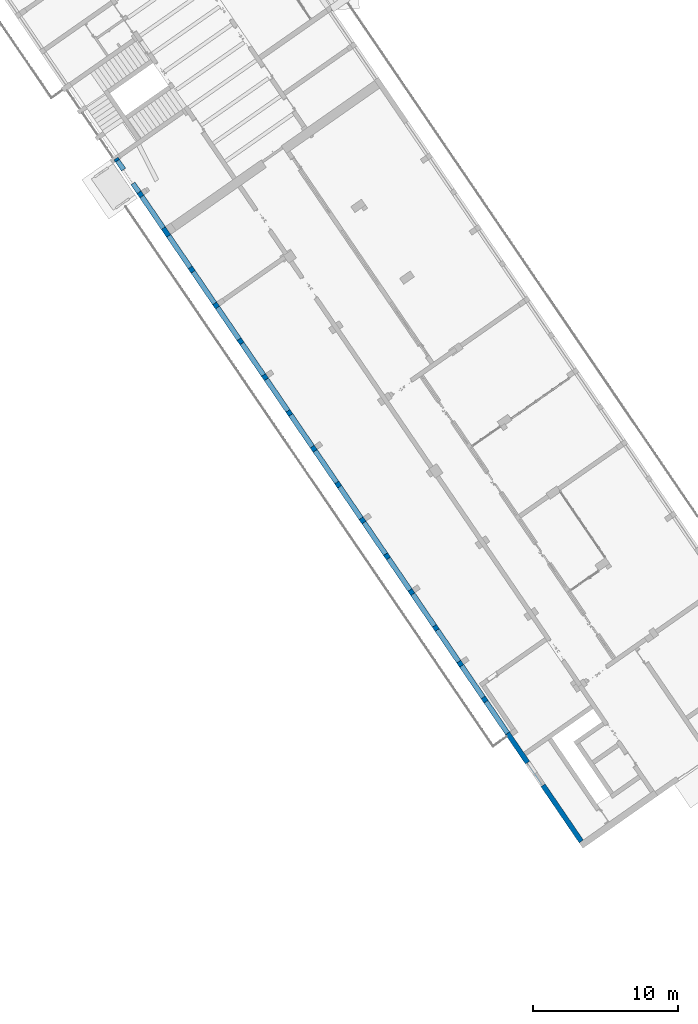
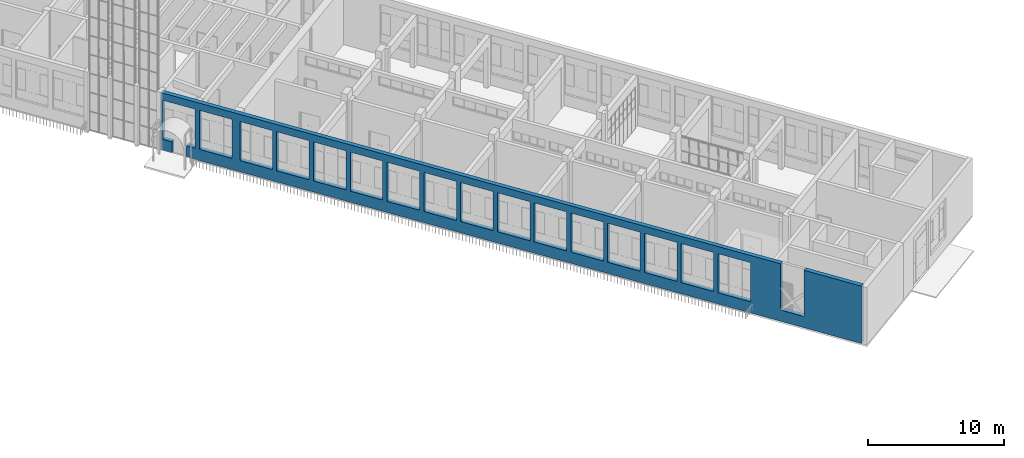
# One storey, part 121 of 157: 1 wall, 15 openings.
"""IFC2X3 building model written with IfcOpenShell, lengths in millimetres."""

from ifc_helpers import new_model, entity, si_unit, converted_unit, derived_unit, direction, frame, frame_2d, origin, place, context, subcontext, project, spatial, rectangle, extrude, faceted_brep, material, layer, layer_set, type_object, element, save


model = new_model("IFC2X3")

# Units and contexts
model_context = context("Model", 3, precision=0.01, world=origin(), true_north=direction((6.123031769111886e-17, 1.0)))
body_context = subcontext(model_context, "Body", "Model", "MODEL_VIEW")
ifc_project = project(units=[si_unit("LENGTHUNIT", "METRE", prefix="MILLI"), si_unit("AREAUNIT", "SQUARE_METRE"), si_unit("VOLUMEUNIT", "CUBIC_METRE"), converted_unit("PLANEANGLEUNIT", "DEGREE", entity("IfcRatioMeasure", 0.017453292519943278), si_unit("PLANEANGLEUNIT", "RADIAN"), dimensions=[0, 0, 0, 0, 0, 0, 0]), si_unit("MASSUNIT", "GRAM", prefix="KILO"), derived_unit("MASSDENSITYUNIT", [(si_unit("MASSUNIT", "GRAM", prefix="KILO"), 1), (si_unit("LENGTHUNIT", "METRE"), -3)]), derived_unit("MOMENTOFINERTIAUNIT", [(si_unit("LENGTHUNIT", "METRE"), 4)]), si_unit("TIMEUNIT", "SECOND"), si_unit("FREQUENCYUNIT", "HERTZ"), si_unit("THERMODYNAMICTEMPERATUREUNIT", "DEGREE_CELSIUS"), derived_unit("THERMALTRANSMITTANCEUNIT", [(si_unit("MASSUNIT", "GRAM", prefix="KILO"), 1), (si_unit("THERMODYNAMICTEMPERATUREUNIT", "KELVIN"), -1), (si_unit("TIMEUNIT", "SECOND"), -3)]), derived_unit("THERMALCONDUCTANCEUNIT", [(si_unit("MASSUNIT", "GRAM", prefix="KILO"), 1), (si_unit("LENGTHUNIT", "METRE"), 1), (si_unit("THERMODYNAMICTEMPERATUREUNIT", "KELVIN"), -1), (si_unit("TIMEUNIT", "SECOND"), -3)]), derived_unit("VOLUMETRICFLOWRATEUNIT", [(si_unit("LENGTHUNIT", "METRE"), 3), (si_unit("TIMEUNIT", "SECOND"), -1)]), derived_unit("MASSFLOWRATEUNIT", [(si_unit("MASSUNIT", "GRAM", prefix="KILO"), 1), (si_unit("TIMEUNIT", "SECOND"), -1)]), derived_unit("ROTATIONALFREQUENCYUNIT", [(si_unit("TIMEUNIT", "SECOND"), -1)]), si_unit("ELECTRICCURRENTUNIT", "AMPERE"), si_unit("ELECTRICVOLTAGEUNIT", "VOLT"), si_unit("POWERUNIT", "WATT"), converted_unit("FORCEUNIT", "KIP", entity("IfcRatioMeasure", 2.088543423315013e-05), si_unit("FORCEUNIT", "NEWTON"), dimensions=[1, 1, -2, 0, 0, 0, 0]), si_unit("ILLUMINANCEUNIT", "LUX"), si_unit("LUMINOUSFLUXUNIT", "LUMEN"), si_unit("LUMINOUSINTENSITYUNIT", "CANDELA"), derived_unit("USERDEFINED", [(si_unit("MASSUNIT", "GRAM", prefix="KILO"), -1), (si_unit("LENGTHUNIT", "METRE"), -2), (si_unit("TIMEUNIT", "SECOND"), 3), (si_unit("LUMINOUSFLUXUNIT", "LUMEN"), 1)]), derived_unit("USERDEFINED", [(si_unit("MASSUNIT", "GRAM", prefix="KILO"), 1), (si_unit("LENGTHUNIT", "METRE"), 3), (si_unit("TIMEUNIT", "SECOND"), -3), (si_unit("ELECTRICCURRENTUNIT", "AMPERE"), -2)]), derived_unit("USERDEFINED", [(si_unit("LENGTHUNIT", "METRE"), 2), (si_unit("TIMEUNIT", "SECOND"), -2)]), derived_unit("SOUNDPOWERUNIT", [(si_unit("MASSUNIT", "GRAM", prefix="KILO"), 1), (si_unit("LENGTHUNIT", "METRE"), 2), (si_unit("TIMEUNIT", "SECOND"), -3)]), derived_unit("SOUNDPRESSUREUNIT", [(si_unit("MASSUNIT", "GRAM", prefix="KILO"), 1), (si_unit("LENGTHUNIT", "METRE"), -1), (si_unit("TIMEUNIT", "SECOND"), -2)]), derived_unit("LINEARVELOCITYUNIT", [(si_unit("LENGTHUNIT", "METRE"), 1), (si_unit("TIMEUNIT", "SECOND"), -1)]), si_unit("PRESSUREUNIT", "PASCAL"), derived_unit("USERDEFINED", [(si_unit("LENGTHUNIT", "METRE"), -2), (si_unit("MASSUNIT", "GRAM", prefix="KILO"), 1), (si_unit("TIMEUNIT", "SECOND"), -2)]), derived_unit("LINEARFORCEUNIT", [(si_unit("MASSUNIT", "GRAM", prefix="KILO"), 1), (si_unit("LENGTHUNIT", "METRE"), 1), (si_unit("TIMEUNIT", "SECOND"), -2), (si_unit("LENGTHUNIT", "METRE"), -1)]), derived_unit("PLANARFORCEUNIT", [(si_unit("MASSUNIT", "GRAM", prefix="KILO"), 1), (si_unit("LENGTHUNIT", "METRE"), 1), (si_unit("TIMEUNIT", "SECOND"), -2), (si_unit("LENGTHUNIT", "METRE"), -2)]), derived_unit("SPECIFICHEATCAPACITYUNIT", [(si_unit("LENGTHUNIT", "METRE"), 2), (si_unit("TIMEUNIT", "SECOND"), -2), (si_unit("THERMODYNAMICTEMPERATUREUNIT", "KELVIN"), -1)]), derived_unit("VAPORPERMEABILITYUNIT", [(si_unit("TIMEUNIT", "SECOND"), 1), (si_unit("LENGTHUNIT", "METRE"), -1)]), derived_unit("DYNAMICVISCOSITYUNIT", [(si_unit("MASSUNIT", "GRAM", prefix="KILO"), 1), (si_unit("LENGTHUNIT", "METRE"), -1), (si_unit("TIMEUNIT", "SECOND"), -1)]), derived_unit("THERMALEXPANSIONCOEFFICIENTUNIT", [(si_unit("THERMODYNAMICTEMPERATUREUNIT", "KELVIN"), -1)])], contexts=[model_context])

# Site, building, storey
site_placement = place(None, frame((0.0, 0.0, 0.0), z_axis=(0.0, 0.0, 1.0), x_axis=(0.8191520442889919, 0.5735764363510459, 0.0)))
site = spatial("IfcSite", under=ifc_project, at=site_placement, Name="Default", CompositionType="ELEMENT")
building_placement = place(site_placement, origin())
building = spatial("IfcBuilding", under=site, at=building_placement, CompositionType="ELEMENT")
storey_placement = place(building_placement, origin())
storey = spatial("IfcBuildingStorey", under=building, at=storey_placement, Name="1.EG +0.00", CompositionType="ELEMENT", Elevation=-4.331468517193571e-12)

# Wall, openings
ifc_material = material(Name="Analytical Wall Surface_CJC")
ifc_layer = layer(ifc_material, 350.0)
ifc_layer_set = layer_set([ifc_layer], Name="Basic Wall:Wand_Aussen_35")
wall_type = type_object("IfcWallType", Name="Basic Wall:Wand_Aussen_35", PredefinedType="STANDARD", material=ifc_layer_set)
wall_placement = place(storey_placement, frame((-223727.55921738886, 52519.13123651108, 0.0), z_axis=(0.0, 0.0, 1.0), x_axis=(0.012729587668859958, 0.9999189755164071, 0.0)))
wall = element("IfcWall", 1, at=wall_placement, inside=storey, type_object=wall_type, Name="Basic Wall:Wand_Aussen_35", ObjectType="Basic Wall:Wand_Aussen_35", context=body_context, shape_type="Brep", body=[
    faceted_brep([(57179.6329502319, -175.0, 0.0), (57179.6329502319, -175.0, 5150.0), (57009.07448650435, -175.0, 5150.0), (54358.859754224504, -175.0, 5150.0), (54008.8313933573, -175.0, 5150.0), (51358.61666107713, -175.0, 5150.0), (50708.56399089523, -175.0, 5150.0), (7355.051294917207, -175.0, 5150.0), (7055.026985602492, -175.0, 5150.0), (6603.0809287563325, -175.0, 5150.0), (6603.0809287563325, -175.0, 1000.0), (4702.290438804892, -175.0, 1000.0), (4702.290438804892, -175.0, 5150.0), (4.455716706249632, -175.0, 5150.0), (4.455716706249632, -175.0, 0.0), (7055.026985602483, -175.0, 0.0), (7355.051294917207, -175.0, 0.0), (8705.160686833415, -175.0, 0.0), (9055.189047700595, -175.0, 0.0), (50708.56399089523, -175.0, 0.0), (51358.61666107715, -175.0, 0.0), (54008.83139335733, -175.0, 0.0), (54358.85975422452, -175.0, 0.0), (55102.85698604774, -175.0, 0.0), (55102.85698604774, -175.0, 1000.0), (54352.85698604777, -175.0, 1000.0), (54352.85698604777, -175.0, 4500.0), (57002.856986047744, -175.0, 4500.0), (57002.85698604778, -175.0, 1000.0), (56252.85698604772, -175.0, 1000.0), (56252.85698604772, -175.0, 0.0), (57009.07448650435, -175.0, 0.0), (9052.85698604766, -175.0, 1000.0), (9052.856986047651, -175.0, 4500.0), (11702.856986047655, -175.0, 4500.0), (11702.856986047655, -175.0, 1000.0), (12052.856986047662, -175.0, 1000.0), (12052.856986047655, -175.0, 4500.0), (14702.85698604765, -175.0, 4500.0), (14702.85698604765, -175.0, 1000.0), (18052.856986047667, -175.0, 1000.0), (18052.85698604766, -175.0, 4500.0), (20702.85698604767, -175.0, 4500.0), (20702.85698604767, -175.0, 1000.0), (15052.856986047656, -175.0, 1000.0), (15052.856986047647, -175.0, 4500.0), (17702.856986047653, -175.0, 4500.0), (17702.856986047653, -175.0, 1000.0), (24052.85698604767, -175.0, 1000.0), (24052.856986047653, -175.0, 4500.0), (26702.856986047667, -175.0, 4500.0), (26702.856986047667, -175.0, 1000.0), (21052.85698604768, -175.0, 1000.0), (21052.85698604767, -175.0, 4500.0), (23702.856986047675, -175.0, 4500.0), (23702.856986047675, -175.0, 1000.0), (30052.856986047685, -175.0, 1000.0), (30052.856986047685, -175.0, 4500.0), (32702.856986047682, -175.0, 4500.0), (32702.856986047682, -175.0, 1000.0), (27052.856986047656, -175.0, 1000.0), (27052.856986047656, -175.0, 4500.0), (29702.85698604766, -175.0, 4500.0), (29702.85698604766, -175.0, 1000.0), (36052.85698604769, -175.0, 1000.0), (36052.85698604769, -175.0, 4500.0), (38702.85698604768, -175.0, 4500.0), (38702.85698604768, -175.0, 1000.0), (33052.856986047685, -175.0, 1000.0), (33052.856986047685, -175.0, 4500.0), (35702.856986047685, -175.0, 4500.0), (35702.856986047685, -175.0, 1000.0), (42052.8569860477, -175.0, 1000.0), (42052.8569860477, -175.0, 4500.0), (44702.85698604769, -175.0, 4500.0), (44702.85698604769, -175.0, 1000.0), (39052.8569860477, -175.0, 1000.0), (39052.8569860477, -175.0, 4500.0), (41702.85698604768, -175.0, 4500.0), (41702.85698604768, -175.0, 1000.0), (48052.856986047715, -175.0, 1000.0), (48052.856986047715, -175.0, 4500.0), (50702.85698604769, -175.0, 4500.0), (50702.85698604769, -175.0, 1000.0), (45052.856986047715, -175.0, 1000.0), (45052.856986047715, -175.0, 4500.0), (47702.85698604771, -175.0, 4500.0), (47702.85698604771, -175.0, 1000.0), (51352.8569860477, -175.0, 1000.0), (51352.8569860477, -175.0, 4500.0), (54002.85698604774, -175.0, 4500.0), (54002.85698604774, -175.0, 1000.0), (57179.63295023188, 175.0, 5150.0), (57179.63295023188, 175.0, 0.0), (57004.61876979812, 175.0, 0.0), (56252.856986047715, 175.0, 0.0), (56252.85698604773, 175.0, 1000.0), (57002.85698604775, 175.0, 1000.0), (57002.85698604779, 175.0, 4500.0), (54352.85698604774, 175.0, 4500.0), (54352.85698604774, 175.0, 1000.0), (55102.856986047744, 175.0, 1000.0), (55102.856986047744, 175.0, 0.0), (0.0, 175.0, 0.0), (0.0, 175.0, 5150.0), (4702.290438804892, 175.0, 5150.0), (4702.290438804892, 175.0, 1000.0), (6603.0809287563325, 175.0, 1000.0), (6603.080928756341, 175.0, 5150.0), (57004.6187697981, 175.0, 5150.0), (9052.85698604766, 175.0, 4500.0), (9052.856986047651, 175.0, 1000.0), (11702.856986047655, 175.0, 1000.0), (11702.856986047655, 175.0, 4500.0), (12052.856986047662, 175.0, 4500.0), (12052.856986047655, 175.0, 1000.0), (14702.85698604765, 175.0, 1000.0), (14702.85698604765, 175.0, 4500.0), (18052.856986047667, 175.0, 4500.0), (18052.85698604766, 175.0, 1000.0), (20702.85698604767, 175.0, 1000.0), (20702.85698604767, 175.0, 4500.0), (15052.856986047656, 175.0, 4500.0), (15052.856986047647, 175.0, 1000.0), (17702.856986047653, 175.0, 1000.0), (17702.856986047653, 175.0, 4500.0), (24052.85698604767, 175.0, 4500.0), (24052.856986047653, 175.0, 1000.0), (26702.85698604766, 175.0, 1000.0), (26702.85698604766, 175.0, 4500.0), (21052.85698604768, 175.0, 4500.0), (21052.85698604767, 175.0, 1000.0), (23702.856986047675, 175.0, 1000.0), (23702.856986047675, 175.0, 4500.0), (30052.85698604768, 175.0, 4500.0), (30052.85698604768, 175.0, 1000.0), (32702.85698604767, 175.0, 1000.0), (32702.85698604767, 175.0, 4500.0), (27052.856986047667, 175.0, 4500.0), (27052.856986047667, 175.0, 1000.0), (29702.856986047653, 175.0, 1000.0), (29702.856986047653, 175.0, 4500.0), (36052.85698604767, 175.0, 4500.0), (36052.85698604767, 175.0, 1000.0), (38702.85698604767, 175.0, 1000.0), (38702.85698604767, 175.0, 4500.0), (33052.85698604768, 175.0, 4500.0), (33052.85698604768, 175.0, 1000.0), (35702.85698604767, 175.0, 1000.0), (35702.85698604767, 175.0, 4500.0), (42052.856986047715, 175.0, 4500.0), (42052.856986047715, 175.0, 1000.0), (44702.8569860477, 175.0, 1000.0), (44702.8569860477, 175.0, 4500.0), (39052.85698604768, 175.0, 4500.0), (39052.85698604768, 175.0, 1000.0), (41702.856986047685, 175.0, 1000.0), (41702.856986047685, 175.0, 4500.0), (48052.85698604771, 175.0, 4500.0), (48052.85698604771, 175.0, 1000.0), (50702.8569860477, 175.0, 1000.0), (50702.8569860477, 175.0, 4500.0), (45052.85698604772, 175.0, 4500.0), (45052.85698604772, 175.0, 1000.0), (47702.85698604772, 175.0, 1000.0), (47702.85698604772, 175.0, 4500.0), (51352.85698604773, 175.0, 4500.0), (51352.85698604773, 175.0, 1000.0), (54002.856986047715, 175.0, 1000.0), (54002.856986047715, 175.0, 4500.0), (6603.080928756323, 25.0, 5150.0), (6603.080928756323, 25.0, 1000.0), (4702.290438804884, 25.0, 1000.0), (4702.290438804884, 25.0, 5150.0)], [[[0, 1, 2, 3, 4, 5, 6, 7, 8, 9, 10, 11, 12, 13, 14, 15, 16, 17, 18, 19, 20, 21, 22, 23, 24, 25, 26, 27, 28, 29, 30, 31], [32, 33, 34, 35], [36, 37, 38, 39], [40, 41, 42, 43], [44, 45, 46, 47], [48, 49, 50, 51], [52, 53, 54, 55], [56, 57, 58, 59], [60, 61, 62, 63], [64, 65, 66, 67], [68, 69, 70, 71], [72, 73, 74, 75], [76, 77, 78, 79], [80, 81, 82, 83], [84, 85, 86, 87], [88, 89, 90, 91]], [[92, 93, 94, 95, 96, 97, 98, 99, 100, 101, 102, 103, 104, 105, 106, 107, 108, 109], [110, 111, 112, 113], [114, 115, 116, 117], [118, 119, 120, 121], [122, 123, 124, 125], [126, 127, 128, 129], [130, 131, 132, 133], [134, 135, 136, 137], [138, 139, 140, 141], [142, 143, 144, 145], [146, 147, 148, 149], [150, 151, 152, 153], [154, 155, 156, 157], [158, 159, 160, 161], [162, 163, 164, 165], [166, 167, 168, 169]], [[14, 13, 104, 103]], [[33, 32, 111, 110]], [[34, 33, 110, 113]], [[35, 34, 113, 112]], [[32, 35, 112, 111]], [[37, 36, 115, 114]], [[38, 37, 114, 117]], [[39, 38, 117, 116]], [[36, 39, 116, 115]], [[41, 40, 119, 118]], [[42, 41, 118, 121]], [[43, 42, 121, 120]], [[40, 43, 120, 119]], [[45, 44, 123, 122]], [[46, 45, 122, 125]], [[47, 46, 125, 124]], [[44, 47, 124, 123]], [[49, 48, 127, 126]], [[50, 49, 126, 129]], [[51, 50, 129, 128]], [[48, 51, 128, 127]], [[53, 52, 131, 130]], [[54, 53, 130, 133]], [[55, 54, 133, 132]], [[52, 55, 132, 131]], [[57, 56, 135, 134]], [[58, 57, 134, 137]], [[59, 58, 137, 136]], [[56, 59, 136, 135]], [[61, 60, 139, 138]], [[62, 61, 138, 141]], [[63, 62, 141, 140]], [[60, 63, 140, 139]], [[65, 64, 143, 142]], [[66, 65, 142, 145]], [[67, 66, 145, 144]], [[64, 67, 144, 143]], [[69, 68, 147, 146]], [[70, 69, 146, 149]], [[71, 70, 149, 148]], [[68, 71, 148, 147]], [[73, 72, 151, 150]], [[74, 73, 150, 153]], [[75, 74, 153, 152]], [[72, 75, 152, 151]], [[77, 76, 155, 154]], [[78, 77, 154, 157]], [[79, 78, 157, 156]], [[76, 79, 156, 155]], [[81, 80, 159, 158]], [[82, 81, 158, 161]], [[83, 82, 161, 160]], [[80, 83, 160, 159]], [[85, 84, 163, 162]], [[86, 85, 162, 165]], [[87, 86, 165, 164]], [[84, 87, 164, 163]], [[89, 88, 167, 166]], [[90, 89, 166, 169]], [[91, 90, 169, 168]], [[88, 91, 168, 167]], [[14, 103, 102, 23, 22, 21, 20, 19, 18, 17, 16, 15]], [[1, 0, 93, 92]], [[9, 8, 7, 6, 5, 4, 3, 2, 1, 92, 109, 108, 170]], [[10, 9, 170, 108, 107, 171]], [[11, 10, 171, 107, 106, 172]], [[12, 11, 172, 106, 105, 173]], [[13, 12, 173, 105, 104]], [[25, 100, 99, 26]], [[26, 99, 98, 27]], [[27, 98, 97, 28]], [[28, 97, 96, 29]], [[24, 23, 102, 101]], [[30, 29, 96, 95]], [[100, 25, 24, 101]], [[93, 0, 31, 30, 95, 94]]]),
])
opening_1_placement = place(wall_placement, frame((9052.856986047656, -175.0, 1000.0)))
element("IfcOpeningElement", 2, at=opening_1_placement, cuts=wall, Name="Fenster_Aussen_CJC:Fenster_Aussen_CJC_265x350:1", ObjectType="Opening", context=body_context, shape_type="SweptSolid", body=[
    extrude(rectangle(XDim=3499.999999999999, YDim=2650.0, at=frame_2d((1749.9999999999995, 1324.9999999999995), x_axis=(1.0, 0.0))), frame((0.0, 0.0, 0.0), z_axis=(0.0, 1.0, 0.0), x_axis=(0.0, 0.0, 1.0)), (0.0, 0.0, 1.0), 349.99999999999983),
])
opening_2_placement = place(wall_placement, frame((12052.85698604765, -175.0, 1000.0)))
element("IfcOpeningElement", 3, at=opening_2_placement, cuts=wall, Name="Fenster_Aussen_CJC:Fenster_Aussen_CJC_265x350:1", ObjectType="Opening", context=body_context, shape_type="SweptSolid", body=[
    extrude(rectangle(XDim=3499.999999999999, YDim=2650.0, at=frame_2d((1749.9999999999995, 1324.9999999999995), x_axis=(1.0, 0.0))), frame((0.0, 0.0, 0.0), z_axis=(0.0, 1.0, 0.0), x_axis=(0.0, 0.0, 1.0)), (0.0, 0.0, 1.0), 349.99999999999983),
])
opening_3_placement = place(wall_placement, frame((15052.856986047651, -175.0, 1000.0)))
element("IfcOpeningElement", 4, at=opening_3_placement, cuts=wall, Name="Fenster_Aussen_CJC:Fenster_Aussen_CJC_265x350:1", ObjectType="Opening", context=body_context, shape_type="SweptSolid", body=[
    extrude(rectangle(XDim=3499.999999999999, YDim=2650.0, at=frame_2d((1749.9999999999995, 1324.9999999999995), x_axis=(1.0, 0.0))), frame((0.0, 0.0, 0.0), z_axis=(0.0, 1.0, 0.0), x_axis=(0.0, 0.0, 1.0)), (0.0, 0.0, 1.0), 349.99999999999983),
])
opening_4_placement = place(wall_placement, frame((18052.856986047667, -175.0, 1000.0)))
element("IfcOpeningElement", 5, at=opening_4_placement, cuts=wall, Name="Fenster_Aussen_CJC:Fenster_Aussen_CJC_265x350:1", ObjectType="Opening", context=body_context, shape_type="SweptSolid", body=[
    extrude(rectangle(XDim=3499.999999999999, YDim=2650.0000000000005, at=frame_2d((1749.9999999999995, 1325.0000000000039), x_axis=(1.0, 0.0))), frame((0.0, 0.0, 0.0), z_axis=(0.0, 1.0, 0.0), x_axis=(0.0, 0.0, 1.0)), (0.0, 0.0, 1.0), 349.99999999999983),
])
opening_5_placement = place(wall_placement, frame((21052.856986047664, -175.0, 1000.0)))
element("IfcOpeningElement", 6, at=opening_5_placement, cuts=wall, Name="Fenster_Aussen_CJC:Fenster_Aussen_CJC_265x350:1", ObjectType="Opening", context=body_context, shape_type="SweptSolid", body=[
    extrude(rectangle(XDim=3499.999999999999, YDim=2650.0, at=frame_2d((1749.9999999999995, 1324.9999999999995), x_axis=(1.0, 0.0))), frame((0.0, 0.0, 0.0), z_axis=(0.0, 1.0, 0.0), x_axis=(0.0, 0.0, 1.0)), (0.0, 0.0, 1.0), 349.99999999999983),
])
opening_6_placement = place(wall_placement, frame((24052.856986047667, -175.0, 1000.0)))
element("IfcOpeningElement", 7, at=opening_6_placement, cuts=wall, Name="Fenster_Aussen_CJC:Fenster_Aussen_CJC_265x350:1", ObjectType="Opening", context=body_context, shape_type="SweptSolid", body=[
    extrude(rectangle(XDim=3499.999999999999, YDim=2650.0, at=frame_2d((1749.9999999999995, 1324.9999999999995), x_axis=(1.0, 0.0))), frame((0.0, 0.0, 0.0), z_axis=(0.0, 1.0, 0.0), x_axis=(0.0, 0.0, 1.0)), (0.0, 0.0, 1.0), 349.99999999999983),
])
opening_7_placement = place(wall_placement, frame((27052.856986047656, -175.0, 1000.0)))
element("IfcOpeningElement", 8, at=opening_7_placement, cuts=wall, Name="Fenster_Aussen_CJC:Fenster_Aussen_CJC_265x350:1", ObjectType="Opening", context=body_context, shape_type="SweptSolid", body=[
    extrude(rectangle(XDim=3499.999999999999, YDim=2650.0000000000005, at=frame_2d((1749.9999999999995, 1325.0000000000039), x_axis=(1.0, 0.0))), frame((0.0, 0.0, 0.0), z_axis=(0.0, 1.0, 0.0), x_axis=(0.0, 0.0, 1.0)), (0.0, 0.0, 1.0), 349.99999999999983),
])
opening_8_placement = place(wall_placement, frame((30052.856986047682, -175.0, 1000.0)))
element("IfcOpeningElement", 9, at=opening_8_placement, cuts=wall, Name="Fenster_Aussen_CJC:Fenster_Aussen_CJC_265x350:1", ObjectType="Opening", context=body_context, shape_type="SweptSolid", body=[
    extrude(rectangle(XDim=3499.999999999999, YDim=2650.0, at=frame_2d((1749.9999999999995, 1324.9999999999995), x_axis=(1.0, 0.0))), frame((0.0, 0.0, 0.0), z_axis=(0.0, 1.0, 0.0), x_axis=(0.0, 0.0, 1.0)), (0.0, 0.0, 1.0), 349.99999999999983),
])
opening_9_placement = place(wall_placement, frame((33052.856986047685, -175.0, 1000.0)))
element("IfcOpeningElement", 10, at=opening_9_placement, cuts=wall, Name="Fenster_Aussen_CJC:Fenster_Aussen_CJC_265x350:1", ObjectType="Opening", context=body_context, shape_type="SweptSolid", body=[
    extrude(rectangle(XDim=3499.999999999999, YDim=2650.0, at=frame_2d((1749.9999999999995, 1324.9999999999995), x_axis=(1.0, 0.0))), frame((0.0, 0.0, 0.0), z_axis=(0.0, 1.0, 0.0), x_axis=(0.0, 0.0, 1.0)), (0.0, 0.0, 1.0), 349.99999999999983),
])
opening_10_placement = place(wall_placement, frame((36052.85698604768, -175.0, 1000.0)))
element("IfcOpeningElement", 11, at=opening_10_placement, cuts=wall, Name="Fenster_Aussen_CJC:Fenster_Aussen_CJC_265x350:1", ObjectType="Opening", context=body_context, shape_type="SweptSolid", body=[
    extrude(rectangle(XDim=3499.999999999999, YDim=2650.0, at=frame_2d((1749.9999999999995, 1324.9999999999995), x_axis=(1.0, 0.0))), frame((0.0, 0.0, 0.0), z_axis=(0.0, 1.0, 0.0), x_axis=(0.0, 0.0, 1.0)), (0.0, 0.0, 1.0), 349.99999999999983),
])
opening_11_placement = place(wall_placement, frame((39052.85698604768, -175.0, 1000.0)))
element("IfcOpeningElement", 12, at=opening_11_placement, cuts=wall, Name="Fenster_Aussen_CJC:Fenster_Aussen_CJC_265x350:1", ObjectType="Opening", context=body_context, shape_type="SweptSolid", body=[
    extrude(rectangle(XDim=3499.999999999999, YDim=2650.0000000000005, at=frame_2d((1749.9999999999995, 1325.0000000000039), x_axis=(1.0, 0.0))), frame((0.0, 0.0, 0.0), z_axis=(0.0, 1.0, 0.0), x_axis=(0.0, 0.0, 1.0)), (0.0, 0.0, 1.0), 349.99999999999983),
])
opening_12_placement = place(wall_placement, frame((42052.856986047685, -175.0, 1000.0)))
element("IfcOpeningElement", 13, at=opening_12_placement, cuts=wall, Name="Fenster_Aussen_CJC:Fenster_Aussen_CJC_265x350:1", ObjectType="Opening", context=body_context, shape_type="SweptSolid", body=[
    extrude(rectangle(XDim=3499.999999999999, YDim=2650.0000000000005, at=frame_2d((1749.9999999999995, 1325.0000000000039), x_axis=(1.0, 0.0))), frame((0.0, 0.0, 0.0), z_axis=(0.0, 1.0, 0.0), x_axis=(0.0, 0.0, 1.0)), (0.0, 0.0, 1.0), 349.99999999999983),
])
opening_13_placement = place(wall_placement, frame((45052.85698604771, -175.0, 1000.0)))
element("IfcOpeningElement", 14, at=opening_13_placement, cuts=wall, Name="Fenster_Aussen_CJC:Fenster_Aussen_CJC_265x350:1", ObjectType="Opening", context=body_context, shape_type="SweptSolid", body=[
    extrude(rectangle(XDim=3499.999999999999, YDim=2650.0000000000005, at=frame_2d((1749.9999999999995, 1325.0000000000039), x_axis=(1.0, 0.0))), frame((0.0, 0.0, 0.0), z_axis=(0.0, 1.0, 0.0), x_axis=(0.0, 0.0, 1.0)), (0.0, 0.0, 1.0), 349.99999999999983),
])
opening_14_placement = place(wall_placement, frame((48052.85698604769, -175.0, 1000.0)))
element("IfcOpeningElement", 15, at=opening_14_placement, cuts=wall, Name="Fenster_Aussen_CJC:Fenster_Aussen_CJC_265x350:1", ObjectType="Opening", context=body_context, shape_type="SweptSolid", body=[
    extrude(rectangle(XDim=3499.999999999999, YDim=2650.0000000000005, at=frame_2d((1749.9999999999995, 1325.0000000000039), x_axis=(1.0, 0.0))), frame((0.0, 0.0, 0.0), z_axis=(0.0, 1.0, 0.0), x_axis=(0.0, 0.0, 1.0)), (0.0, 0.0, 1.0), 349.99999999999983),
])
opening_15_placement = place(wall_placement, frame((51352.85698604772, -175.0, 1000.0)))
element("IfcOpeningElement", 16, at=opening_15_placement, cuts=wall, Name="Fenster_Aussen_CJC:Fenster_Aussen_CJC_265x350:1", ObjectType="Opening", context=body_context, shape_type="SweptSolid", body=[
    extrude(rectangle(XDim=3499.999999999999, YDim=2650.0000000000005, at=frame_2d((1749.9999999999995, 1325.0000000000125), x_axis=(1.0, 0.0))), frame((0.0, 0.0, 0.0), z_axis=(0.0, 1.0, 0.0), x_axis=(0.0, 0.0, 1.0)), (0.0, 0.0, 1.0), 349.99999999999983),
])

save(model, "model.ifc")
